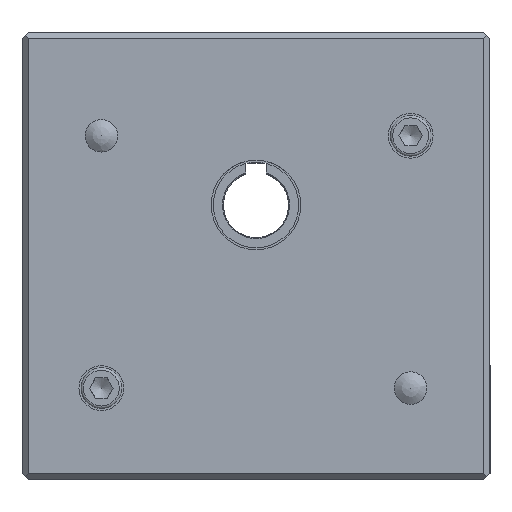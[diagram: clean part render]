
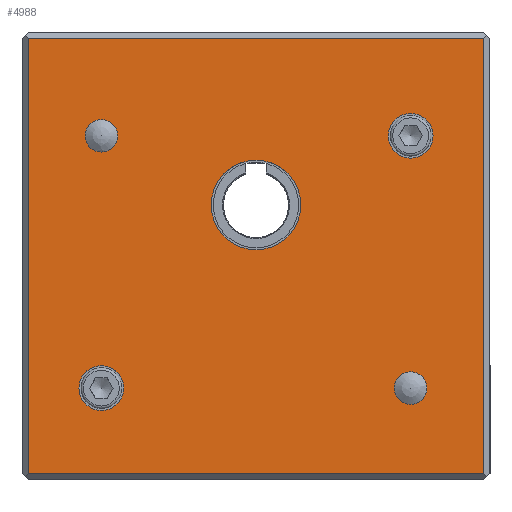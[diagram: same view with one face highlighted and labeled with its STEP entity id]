
A CAD part, top view. The second image highlights one B-rep face of the part: STEP entity #4988.
In plain terms, the highlighted planar face has unit normal (0, 0, 1).
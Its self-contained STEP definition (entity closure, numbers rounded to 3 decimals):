
#162=FACE_BOUND('',#834,.T.);
#163=FACE_BOUND('',#835,.T.);
#164=FACE_BOUND('',#836,.T.);
#165=FACE_BOUND('',#837,.T.);
#166=FACE_BOUND('',#838,.T.);
#292=PLANE('',#5623);
#538=FACE_OUTER_BOUND('',#833,.T.);
#833=EDGE_LOOP('',(#4340,#4341,#4342,#4343));
#834=EDGE_LOOP('',(#4344));
#835=EDGE_LOOP('',(#4345));
#836=EDGE_LOOP('',(#4346));
#837=EDGE_LOOP('',(#4347));
#838=EDGE_LOOP('',(#4348,#4349));
#1286=LINE('',#8373,#1769);
#1287=LINE('',#8375,#1770);
#1288=LINE('',#8377,#1771);
#1289=LINE('',#8378,#1772);
#1769=VECTOR('',#6869,107.);
#1770=VECTOR('',#6870,112.);
#1771=VECTOR('',#6871,107.);
#1772=VECTOR('',#6872,112.);
#2036=CIRCLE('',#5591,3.);
#2039=CIRCLE('',#5595,3.);
#2048=CIRCLE('',#5611,5.5);
#2054=CIRCLE('',#5620,5.5);
#2056=CIRCLE('',#5624,11.);
#2057=CIRCLE('',#5625,11.);
#2424=VERTEX_POINT('',#8245);
#2427=VERTEX_POINT('',#8253);
#2467=VERTEX_POINT('',#8346);
#2473=VERTEX_POINT('',#8363);
#2475=VERTEX_POINT('',#8371);
#2476=VERTEX_POINT('',#8372);
#2477=VERTEX_POINT('',#8374);
#2478=VERTEX_POINT('',#8376);
#2479=VERTEX_POINT('',#8379);
#2480=VERTEX_POINT('',#8380);
#3066=EDGE_CURVE('',#2424,#2424,#2036,.T.);
#3070=EDGE_CURVE('',#2427,#2427,#2039,.T.);
#3115=EDGE_CURVE('',#2467,#2467,#2048,.T.);
#3123=EDGE_CURVE('',#2473,#2473,#2054,.T.);
#3127=EDGE_CURVE('',#2475,#2476,#1286,.T.);
#3128=EDGE_CURVE('',#2475,#2477,#1287,.T.);
#3129=EDGE_CURVE('',#2477,#2478,#1288,.T.);
#3130=EDGE_CURVE('',#2478,#2476,#1289,.T.);
#3131=EDGE_CURVE('',#2479,#2480,#2056,.T.);
#3132=EDGE_CURVE('',#2480,#2479,#2057,.T.);
#4340=ORIENTED_EDGE('',*,*,#3127,.F.);
#4341=ORIENTED_EDGE('',*,*,#3128,.T.);
#4342=ORIENTED_EDGE('',*,*,#3129,.T.);
#4343=ORIENTED_EDGE('',*,*,#3130,.T.);
#4344=ORIENTED_EDGE('',*,*,#3066,.T.);
#4345=ORIENTED_EDGE('',*,*,#3070,.T.);
#4346=ORIENTED_EDGE('',*,*,#3115,.T.);
#4347=ORIENTED_EDGE('',*,*,#3123,.T.);
#4348=ORIENTED_EDGE('',*,*,#3131,.F.);
#4349=ORIENTED_EDGE('',*,*,#3132,.F.);
#4988=ADVANCED_FACE('',(#538,#162,#163,#164,#165,#166),#292,.T.);
#5591=AXIS2_PLACEMENT_3D('',#8247,#6762,#6763);
#5595=AXIS2_PLACEMENT_3D('',#8255,#6771,#6772);
#5611=AXIS2_PLACEMENT_3D('',#8347,#6839,#6840);
#5620=AXIS2_PLACEMENT_3D('',#8364,#6859,#6860);
#5623=AXIS2_PLACEMENT_3D('',#8370,#6867,#6868);
#5624=AXIS2_PLACEMENT_3D('',#8381,#6873,#6874);
#5625=AXIS2_PLACEMENT_3D('',#8382,#6875,#6876);
#6762=DIRECTION('center_axis',(0.,0.,
-1.));
#6763=DIRECTION('ref_axis',(1.,0.,0.));
#6771=DIRECTION('center_axis',(0.,0.,
-1.));
#6772=DIRECTION('ref_axis',(1.,0.,0.));
#6839=DIRECTION('center_axis',(0.,0.,
-1.));
#6840=DIRECTION('ref_axis',(-1.,0.,0.));
#6859=DIRECTION('center_axis',(0.,0.,
-1.));
#6860=DIRECTION('ref_axis',(-1.,0.,0.));
#6867=DIRECTION('center_axis',(0.,0.,
1.));
#6868=DIRECTION('ref_axis',(1.,0.,0.));
#6869=DIRECTION('',(0.,-1.,0.));
#6870=DIRECTION('',(-1.,0.,0.));
#6871=DIRECTION('',(0.,-1.,0.));
#6872=DIRECTION('',(1.,0.,0.));
#6873=DIRECTION('center_axis',(0.,0.,
1.));
#6874=DIRECTION('ref_axis',(1.,0.,0.));
#6875=DIRECTION('center_axis',(0.,0.,
1.));
#6876=DIRECTION('ref_axis',(1.,0.,0.));
#8245=CARTESIAN_POINT('',(-41.,17.,22.5));
#8247=CARTESIAN_POINT('Origin',(-38.,17.,22.5));
#8253=CARTESIAN_POINT('',(35.001,-45.,22.5));
#8255=CARTESIAN_POINT('Origin',(38.001,-45.,22.5));
#8346=CARTESIAN_POINT('',(-32.5,-45.,22.5));
#8347=CARTESIAN_POINT('Origin',(-38.,-45.,22.5));
#8363=CARTESIAN_POINT('',(43.501,17.,22.5));
#8364=CARTESIAN_POINT('Origin',(38.001,17.,22.5));
#8370=CARTESIAN_POINT('Origin',(0.122,-19.899,22.5));
#8371=CARTESIAN_POINT('',(56.001,41.,22.5));
#8372=CARTESIAN_POINT('',(56.001,-66.,22.5));
#8373=CARTESIAN_POINT('',(56.001,37.492,22.5));
#8374=CARTESIAN_POINT('',(-56.,41.,22.5));
#8375=CARTESIAN_POINT('',(57.5,41.,22.5));
#8376=CARTESIAN_POINT('',(-56.,-66.,22.5));
#8377=CARTESIAN_POINT('',(-56.,-42.95,22.5));
#8378=CARTESIAN_POINT('',(28.811,-66.,22.5));
#8379=CARTESIAN_POINT('',(11.,0.,22.5));
#8380=CARTESIAN_POINT('',(-11.,0.,22.5));
#8381=CARTESIAN_POINT('Origin',(0.,0.,
22.5));
#8382=CARTESIAN_POINT('Origin',(0.,0.,
22.5));
